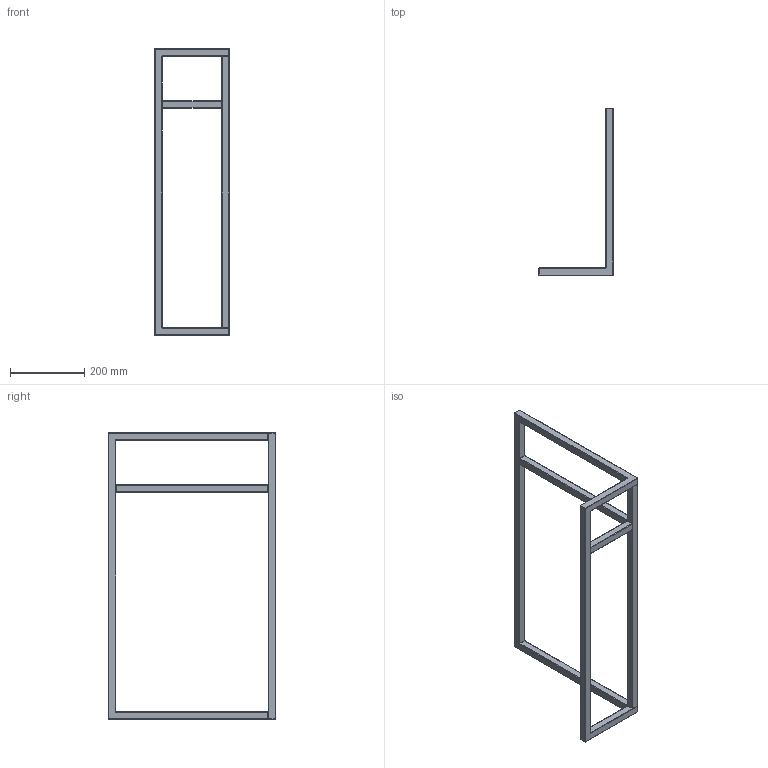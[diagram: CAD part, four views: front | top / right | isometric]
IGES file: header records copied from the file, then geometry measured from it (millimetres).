
Global section: file name: D:\Renovando Conceptos\Trabajos Varios\BathCo\47 Biblioteca Lavabos 3D\8233 Set Soportes Negros\8233_Set Soportes Negros.igs; native system: Rhinoceros ( Feb 26 2015 ); preprocessor: Trout Lake IGES 012 Feb 26 2015; date: 201109.062536; units: millimetre
Bounding box: 200 x 450 x 770 mm (x, y, z)
Surface area: 312902.4 mm2 (no closed solid volume)
Topology: 0 solids, 0 shells, 148 faces, 628 edges, 628 vertices
Faces by surface type: bspline 148
